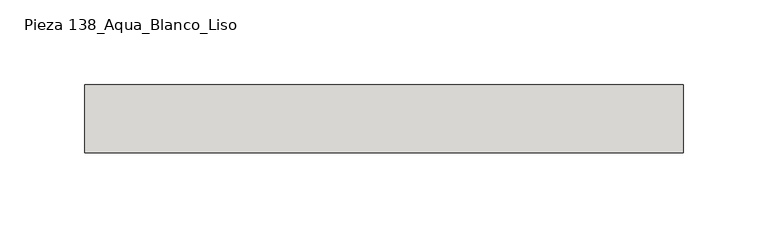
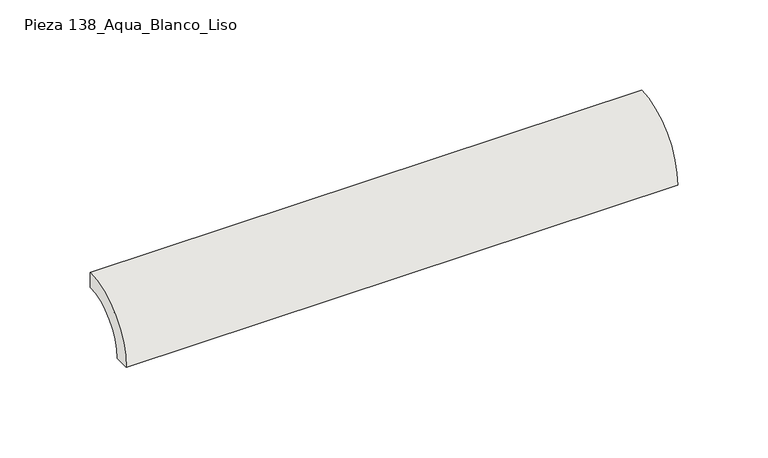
"""IFC4 building model written with IfcOpenShell, lengths in millimetres: slab geometry, ROSA GRES_138 : Pieza 138_Aqua_Blanco_Liso."""

from ifc_helpers import new_model, si_unit, point, frame, frame_2d, origin, origin_2d, place, context, project, spatial, polyline, circle_curve, trimmed, segment, composite_curve, outline, extrude, source, transform, mapped, element, save


def pieza_138_aqua_blanco_liso_22750d7f(model_context):
    return source(origin(), model_context, "Body", "SweptSolid", [
        extrude(outline(composite_curve([segment(polyline([(0.0, 40.0), (0.0, 30.0265886)]), True, "CONTINUOUS"), segment(trimmed(circle_curve(frame_2d((-0.0044453, 0.0044453)), 30.0221435), [point((0.0, 30.0265886))], [point((-30.0265886, 0.0))], True, "CARTESIAN"), True, "CONTINUOUS"), segment(polyline([(-30.0265886, 0.0), (-40.0, 0.0)]), True, "CONTINUOUS"), segment(trimmed(circle_curve(origin_2d(), 40.0), [point((-40.0, 0.0))], [point((0.0, 40.0))], False, "CARTESIAN"), True, "CONTINUOUS")], self_intersect=False)), frame((0.0, 0.0, 0.0), z_axis=(1.0, 0.0, 0.0), x_axis=(0.0, 1.0, 0.0)), (0.0, 0.0, 1.0), 352.4145194),
    ])


if __name__ == "__main__":
    model = new_model("IFC4")
    model_context = context("Model", 3, world=origin())
    ifc_project = project(units=[si_unit("LENGTHUNIT", "METRE", prefix="MILLI")], contexts=[model_context])
    site = spatial("IfcSite", under=ifc_project)
    building = spatial("IfcBuilding", under=site)
    placement = place(None, origin())
    pieza_138_aqua_blanco_liso_shape = pieza_138_aqua_blanco_liso_22750d7f(model_context)
    element("IfcSlab", 1, ObjectType="ROSA GRES_138 : Pieza 138_Aqua_Blanco_Liso", at=placement, inside=building, context=model_context, shape_type="MappedRepresentation", body=[
        mapped(pieza_138_aqua_blanco_liso_shape, transform((0.0, 0.0, 0.0), x_axis=(1.0, 0.0, 0.0), y_axis=(0.0, 1.0, 0.0), z_axis=(0.0, 0.0, 1.0))),
    ])
    save(model, "model.ifc")
